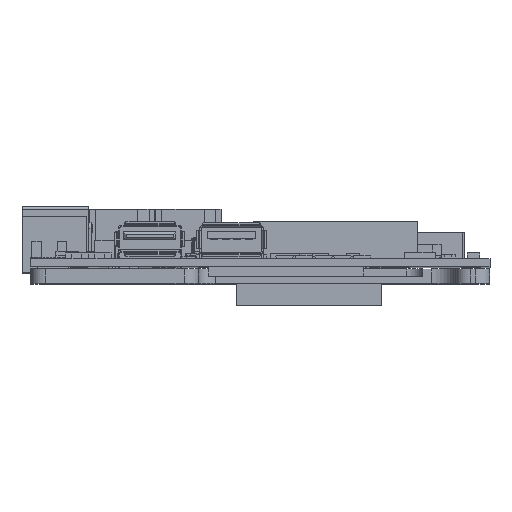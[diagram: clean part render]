
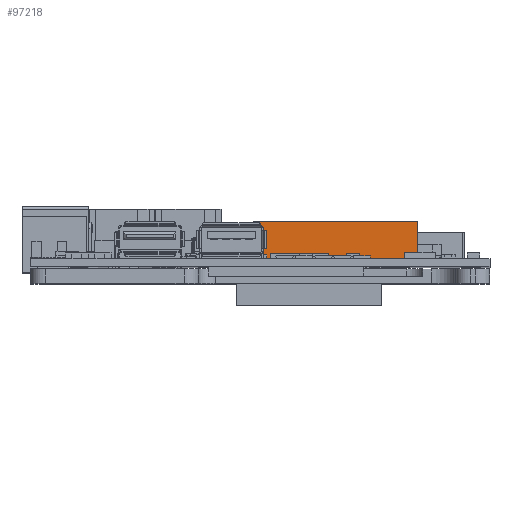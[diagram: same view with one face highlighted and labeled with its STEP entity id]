
A CAD part, top view. The second image highlights one B-rep face of the part: STEP entity #97218.
In plain terms, the highlighted planar face has unit normal (0, 0, 1).
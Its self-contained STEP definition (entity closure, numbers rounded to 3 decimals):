
#2911 = VECTOR ( 'NONE', #392482, 1000. ) ;
#15961 = VERTEX_POINT ( 'NONE', #181886 ) ;
#22298 = VECTOR ( 'NONE', #304570, 1000. ) ;
#24829 = VECTOR ( 'NONE', #316759, 1000. ) ;
#37681 = VECTOR ( 'NONE', #223455, 1000. ) ;
#54685 = CARTESIAN_POINT ( 'NONE',  ( -15., 1.57, 99.26 ) ) ;
#59254 = ORIENTED_EDGE ( 'NONE', *, *, #156762, .F. ) ;
#65667 = CARTESIAN_POINT ( 'NONE',  ( -15., 9.37, 99.26 ) ) ;
#71639 = ORIENTED_EDGE ( 'NONE', *, *, #119988, .F. ) ;
#83984 = PLANE ( 'NONE',  #129068 ) ;
#85358 = DIRECTION ( 'NONE',  ( -1., 0., 0. ) ) ;
#85655 = FACE_OUTER_BOUND ( 'NONE', #387901, .T. ) ;
#91504 = CARTESIAN_POINT ( 'NONE',  ( -15., 9.37, 99.26 ) ) ;
#97218 = ADVANCED_FACE ( 'NONE', ( #85655 ), #83984, .F. ) ;
#108924 = CARTESIAN_POINT ( 'NONE',  ( -49.01, 9.37, 99.26 ) ) ;
#119988 = EDGE_CURVE ( 'NONE', #320754, #349872, #120791, .T. ) ;
#120791 = LINE ( 'NONE', #91504, #24829 ) ;
#129068 = AXIS2_PLACEMENT_3D ( 'NONE', #247242, #374136, #85358 ) ;
#156762 = EDGE_CURVE ( 'NONE', #349872, #184881, #300555, .T. ) ;
#181886 = CARTESIAN_POINT ( 'NONE',  ( -49.01, 1.57, 99.26 ) ) ;
#184881 = VERTEX_POINT ( 'NONE', #299695 ) ;
#205133 = ORIENTED_EDGE ( 'NONE', *, *, #209028, .T. ) ;
#205643 = EDGE_CURVE ( 'NONE', #15961, #184881, #410966, .T. ) ;
#209028 = EDGE_CURVE ( 'NONE', #320754, #15961, #345041, .T. ) ;
#223455 = DIRECTION ( 'NONE',  ( 1., 0., 0. ) ) ;
#247242 = CARTESIAN_POINT ( 'NONE',  ( -15., 9.37, 99.26 ) ) ;
#273440 = ORIENTED_EDGE ( 'NONE', *, *, #205643, .T. ) ;
#299695 = CARTESIAN_POINT ( 'NONE',  ( -15., 1.57, 99.26 ) ) ;
#300555 = LINE ( 'NONE', #65667, #2911 ) ;
#304570 = DIRECTION ( 'NONE',  ( 0., -1., 0. ) ) ;
#316759 = DIRECTION ( 'NONE',  ( 1., 0., 0. ) ) ;
#320754 = VERTEX_POINT ( 'NONE', #335534 ) ;
#333301 = CARTESIAN_POINT ( 'NONE',  ( -15., 9.37, 99.26 ) ) ;
#335534 = CARTESIAN_POINT ( 'NONE',  ( -49.01, 9.37, 99.26 ) ) ;
#345041 = LINE ( 'NONE', #108924, #22298 ) ;
#349872 = VERTEX_POINT ( 'NONE', #333301 ) ;
#374136 = DIRECTION ( 'NONE',  ( 0., 0., -1. ) ) ;
#387901 = EDGE_LOOP ( 'NONE', ( #273440, #59254, #71639, #205133 ) ) ;
#392482 = DIRECTION ( 'NONE',  ( 0., -1., 0. ) ) ;
#410966 = LINE ( 'NONE', #54685, #37681 ) ;
